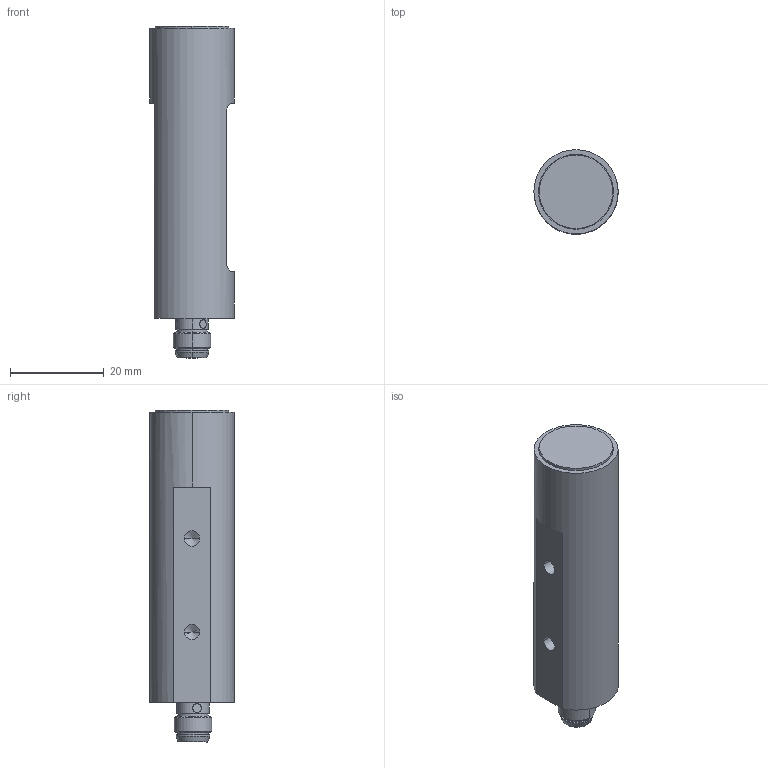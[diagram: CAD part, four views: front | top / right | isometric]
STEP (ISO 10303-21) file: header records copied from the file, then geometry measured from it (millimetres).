
FILE_DESCRIPTION(('STEP AP214'),'1');
FILE_NAME('Z:/Spaceclaim-Entwürfe/Powerpin/Powerpin-Gehäuse-LED-Linse-M8-Front-für-Daniel.stp','2014-01-24T10:42:13',(' '),(' '),'Spatial InterOp 3D',' ',' ');
FILE_SCHEMA(('automotive_design'));
Length unit declared in the file: millimetre
Products named in the file (4): Powerpin-Gehäuse-LED-Linse-M8-Front-für-Daniel; M8-4pol; Powerpin-PCB+Oslon+FLTLinse; Powerpin-PCB+Oslon+FLTLinse Geometry
Assembly tree (3 placements, depth 3):
  Powerpin-Gehäuse-LED-Linse-M8-Front-für-Daniel
    M8-4pol
    Powerpin-PCB+Oslon+FLTLinse
      Powerpin-PCB+Oslon+FLTLinse Geometry
Bounding box: 18 x 17.99 x 70.97 mm (x, y, z)
Volume: 14013.6 mm3; surface area: 6704 mm2
Topology: 1 solids, 2 shells, 404 faces, 1082 edges, 691 vertices
Faces by surface type: cylinder 179, plane 140, cone 57, bspline 14, sphere 8, torus 6
Entity records: 17226 total; most frequent: CARTESIAN_POINT 3846, DIRECTION 2200, ORIENTED_EDGE 2118, EDGE_CURVE 1059, AXIS2_PLACEMENT_3D 892, VERTEX_POINT 685, CIRCLE 494, EDGE_LOOP 432
